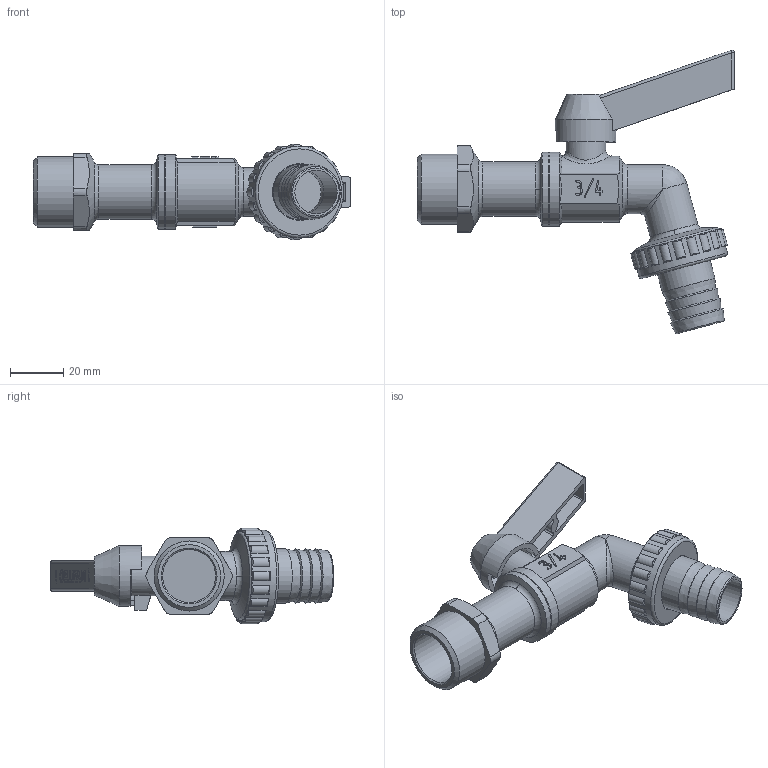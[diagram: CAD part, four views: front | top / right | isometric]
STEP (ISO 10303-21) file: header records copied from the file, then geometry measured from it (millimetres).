
FILE_DESCRIPTION(('STEP AP203'), '1');
FILE_NAME('VT.051.N.05', '', ('UNSPECIFIED'), ('UNSPECIFIED'), 'C3D Converter', 'C3D Toolkit', '');
FILE_SCHEMA(('CONFIG_CONTROL_DESIGN'));
Length unit declared in the file: millimetre
Products named in the file (1): ВР.491811.015.000 СБ
Bounding box: 119.5 x 106.9 x 36 mm (x, y, z)
Volume: 63902.1 mm3; surface area: 23317.9 mm2
Topology: 1 solids, 1 shells, 603 faces, 1578 edges, 1005 vertices
Faces by surface type: plane 388, cylinder 82, cone 63, extrusion 38, torus 11, sphere 11, bspline 10
Full cylindrical faces by diameter (mm): 7.5 x1, 9 x2, 11.5 x1, 15 x1, 16.5 x1, 18.5 x2, 19 x1, 20 x1, 20.5 x2, 21 x1, 23 x1, 26.441 x1, 28 x2, 34.5 x1
Entity records: 21279 total; most frequent: CARTESIAN_POINT 7017, ORIENTED_EDGE 3034, DIRECTION 2665, EDGE_CURVE 1517, VECTOR 1119, LINE 1081, VERTEX_POINT 1005, AXIS2_PLACEMENT_3D 773
